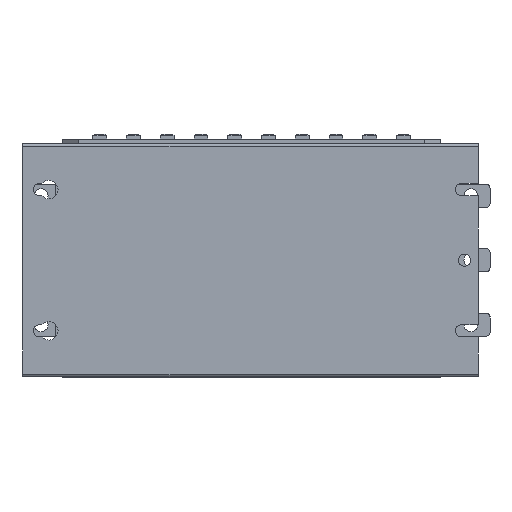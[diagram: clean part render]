
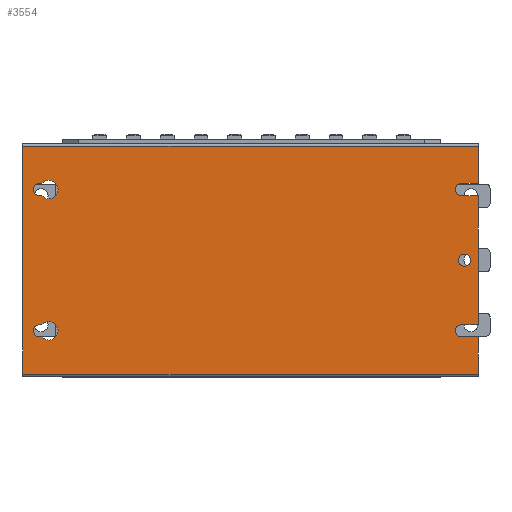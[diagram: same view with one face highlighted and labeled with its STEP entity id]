
A CAD part, front view. The second image highlights one B-rep face of the part: STEP entity #3554.
In plain terms, the highlighted planar face has unit normal (0, -1, 0).
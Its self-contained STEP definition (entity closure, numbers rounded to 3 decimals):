
#3554=ADVANCED_FACE('',(#25844,#25846,#25848,#25850),#25852,.T.);
#25844=FACE_BOUND('',#25845,.T.);
#25845=EDGE_LOOP('',(#47780,#47781,#47782,#47783,#47784,#47785,#47786,#47787,#47788,
#47789,#47790,#47791));
#25846=FACE_BOUND('',#25847,.T.);
#25847=EDGE_LOOP('',(#47792,#47793,#47794,#47795));
#25848=FACE_BOUND('',#25849,.T.);
#25849=EDGE_LOOP('',(#47796,#47797,#47798,#47799));
#25850=FACE_BOUND('',#25851,.T.);
#25851=EDGE_LOOP('',(#47800));
#25852=PLANE('',#25853);
#25853=AXIS2_PLACEMENT_3D('',#25854,#25855,#25856);
#25854=CARTESIAN_POINT('',(0.,0.,76.));
#25855=DIRECTION('',(0.,-1.,0.));
#25856=DIRECTION('',(0.,0.,-1.));
#47780=ORIENTED_EDGE('',*,*,#67159,.F.);
#47781=ORIENTED_EDGE('',*,*,#67160,.T.);
#47782=ORIENTED_EDGE('',*,*,#67161,.T.);
#47783=ORIENTED_EDGE('',*,*,#67162,.T.);
#47784=ORIENTED_EDGE('',*,*,#67163,.F.);
#47785=ORIENTED_EDGE('',*,*,#67158,.T.);
#47786=ORIENTED_EDGE('',*,*,#67164,.T.);
#47787=ORIENTED_EDGE('',*,*,#67165,.F.);
#47788=ORIENTED_EDGE('',*,*,#67166,.F.);
#47789=ORIENTED_EDGE('',*,*,#67167,.T.);
#47790=ORIENTED_EDGE('',*,*,#67168,.T.);
#47791=ORIENTED_EDGE('',*,*,#67169,.F.);
#47792=ORIENTED_EDGE('',*,*,#67170,.T.);
#47793=ORIENTED_EDGE('',*,*,#67171,.F.);
#47794=ORIENTED_EDGE('',*,*,#67172,.T.);
#47795=ORIENTED_EDGE('',*,*,#67173,.F.);
#47796=ORIENTED_EDGE('',*,*,#67174,.F.);
#47797=ORIENTED_EDGE('',*,*,#67175,.T.);
#47798=ORIENTED_EDGE('',*,*,#67176,.F.);
#47799=ORIENTED_EDGE('',*,*,#67177,.T.);
#47800=ORIENTED_EDGE('',*,*,#67178,.F.);
#67158=EDGE_CURVE('',#74462,#74459,#74464,.T.);
#67159=EDGE_CURVE('',#74465,#74466,#74467,.T.);
#67160=EDGE_CURVE('',#74465,#74468,#74469,.T.);
#67161=EDGE_CURVE('',#74468,#74470,#74471,.T.);
#67162=EDGE_CURVE('',#74470,#74472,#74473,.T.);
#67163=EDGE_CURVE('',#74462,#74472,#74474,.T.);
#67164=EDGE_CURVE('',#74459,#74475,#74476,.T.);
#67165=EDGE_CURVE('',#74477,#74475,#74478,.T.);
#67166=EDGE_CURVE('',#74479,#74477,#74480,.T.);
#67167=EDGE_CURVE('',#74479,#74481,#74482,.T.);
#67168=EDGE_CURVE('',#74481,#74483,#74484,.T.);
#67169=EDGE_CURVE('',#74466,#74483,#74485,.T.);
#67170=EDGE_CURVE('',#74486,#74487,#74488,.T.);
#67171=EDGE_CURVE('',#74489,#74487,#74490,.T.);
#67172=EDGE_CURVE('',#74489,#74491,#74492,.T.);
#67173=EDGE_CURVE('',#74486,#74491,#74493,.T.);
#67174=EDGE_CURVE('',#74494,#74495,#74496,.T.);
#67175=EDGE_CURVE('',#74494,#74497,#74498,.T.);
#67176=EDGE_CURVE('',#74499,#74497,#74500,.T.);
#67177=EDGE_CURVE('',#74499,#74495,#74501,.T.);
#67178=EDGE_CURVE('',#74502,#74502,#74503,.T.);
#74459=VERTEX_POINT('',#85673);
#74462=VERTEX_POINT('',#85681);
#74464=LINE('',#85686,#85687);
#74465=VERTEX_POINT('',#85689);
#74466=VERTEX_POINT('',#85690);
#74467=CIRCLE('',#85691,4.);
#74468=VERTEX_POINT('',#85695);
#74469=LINE('',#85696,#85697);
#74470=VERTEX_POINT('',#85699);
#74471=LINE('',#85700,#85701);
#74472=VERTEX_POINT('',#85703);
#74473=LINE('',#85704,#85705);
#74474=LINE('',#85707,#85708);
#74475=VERTEX_POINT('',#85710);
#74476=LINE('',#85711,#85712);
#74477=VERTEX_POINT('',#85714);
#74478=LINE('',#85715,#85716);
#74479=VERTEX_POINT('',#85718);
#74480=CIRCLE('',#85719,4.);
#74481=VERTEX_POINT('',#85723);
#74482=LINE('',#85724,#85725);
#74483=VERTEX_POINT('',#85727);
#74484=LINE('',#85728,#85729);
#74485=LINE('',#85731,#85732);
#74486=VERTEX_POINT('',#85734);
#74487=VERTEX_POINT('',#85735);
#74488=LINE('',#85736,#85737);
#74489=VERTEX_POINT('',#85739);
#74490=CIRCLE('',#85740,6.);
#74491=VERTEX_POINT('',#85744);
#74492=LINE('',#85745,#85746);
#74493=CIRCLE('',#85748,4.);
#74494=VERTEX_POINT('',#85752);
#74495=VERTEX_POINT('',#85753);
#74496=CIRCLE('',#85754,4.);
#74497=VERTEX_POINT('',#85758);
#74498=LINE('',#85759,#85760);
#74499=VERTEX_POINT('',#85762);
#74500=CIRCLE('',#85763,6.);
#74501=LINE('',#85767,#85768);
#74502=VERTEX_POINT('',#85770);
#74503=CIRCLE('',#85771,4.);
#85673=CARTESIAN_POINT('',(297.,0.,-74.2));
#85681=CARTESIAN_POINT('',(0.,0.,-74.2));
#85686=CARTESIAN_POINT('',(0.,0.,-74.2));
#85687=VECTOR('',#85688,1.);
#85688=DIRECTION('',(1.,0.,0.));
#85689=CARTESIAN_POINT('',(286.,0.,50.));
#85690=CARTESIAN_POINT('',(286.,0.,42.));
#85691=AXIS2_PLACEMENT_3D('',#85692,#85693,#85694);
#85692=CARTESIAN_POINT('',(286.,0.,46.));
#85693=DIRECTION('',(0.,-1.,0.));
#85694=DIRECTION('',(0.,0.,1.));
#85695=CARTESIAN_POINT('',(297.,0.,50.));
#85696=CARTESIAN_POINT('',(286.,0.,50.));
#85697=VECTOR('',#85698,1.);
#85698=DIRECTION('',(1.,0.,0.));
#85699=CARTESIAN_POINT('',(297.,0.,74.2));
#85700=CARTESIAN_POINT('',(297.,0.,50.));
#85701=VECTOR('',#85702,1.);
#85702=DIRECTION('',(0.,0.,1.));
#85703=CARTESIAN_POINT('',(0.,0.,74.2));
#85704=CARTESIAN_POINT('',(297.,0.,74.2));
#85705=VECTOR('',#85706,1.);
#85706=DIRECTION('',(-1.,0.,0.));
#85707=CARTESIAN_POINT('',(0.,0.,-74.2));
#85708=VECTOR('',#85709,1.);
#85709=DIRECTION('',(0.,0.,1.));
#85710=CARTESIAN_POINT('',(297.,0.,-50.));
#85711=CARTESIAN_POINT('',(297.,0.,-74.2));
#85712=VECTOR('',#85713,1.);
#85713=DIRECTION('',(0.,0.,1.));
#85714=CARTESIAN_POINT('',(286.,0.,-50.));
#85715=CARTESIAN_POINT('',(286.,0.,-50.));
#85716=VECTOR('',#85717,1.);
#85717=DIRECTION('',(1.,0.,0.));
#85718=CARTESIAN_POINT('',(286.,0.,-42.));
#85719=AXIS2_PLACEMENT_3D('',#85720,#85721,#85722);
#85720=CARTESIAN_POINT('',(286.,0.,-46.));
#85721=DIRECTION('',(0.,-1.,0.));
#85722=DIRECTION('',(0.,0.,1.));
#85723=CARTESIAN_POINT('',(297.,0.,-42.));
#85724=CARTESIAN_POINT('',(286.,0.,-42.));
#85725=VECTOR('',#85726,1.);
#85726=DIRECTION('',(1.,0.,0.));
#85727=CARTESIAN_POINT('',(297.,0.,42.));
#85728=CARTESIAN_POINT('',(297.,0.,-42.));
#85729=VECTOR('',#85730,1.);
#85730=DIRECTION('',(0.,0.,1.));
#85731=CARTESIAN_POINT('',(286.,0.,42.));
#85732=VECTOR('',#85733,1.);
#85733=DIRECTION('',(1.,0.,0.));
#85734=CARTESIAN_POINT('',(11.,0.,50.));
#85735=CARTESIAN_POINT('',(12.528,0.,50.));
#85736=CARTESIAN_POINT('',(11.,0.,50.));
#85737=VECTOR('',#85738,1.);
#85738=DIRECTION('',(1.,0.,0.));
#85739=CARTESIAN_POINT('',(12.528,0.,42.));
#85740=AXIS2_PLACEMENT_3D('',#85741,#85742,#85743);
#85741=CARTESIAN_POINT('',(17.,0.,46.));
#85742=DIRECTION('',(0.,-1.,0.));
#85743=DIRECTION('',(-0.745,0.,-0.667));
#85744=CARTESIAN_POINT('',(11.,0.,42.));
#85745=CARTESIAN_POINT('',(12.528,0.,42.));
#85746=VECTOR('',#85747,1.);
#85747=DIRECTION('',(-1.,0.,0.));
#85748=AXIS2_PLACEMENT_3D('',#85749,#85750,#85751);
#85749=CARTESIAN_POINT('',(11.,0.,46.));
#85750=DIRECTION('',(0.,-1.,0.));
#85751=DIRECTION('',(0.,0.,1.));
#85752=CARTESIAN_POINT('',(11.,0.,-42.));
#85753=CARTESIAN_POINT('',(11.,0.,-50.));
#85754=AXIS2_PLACEMENT_3D('',#85755,#85756,#85757);
#85755=CARTESIAN_POINT('',(11.,0.,-46.));
#85756=DIRECTION('',(0.,-1.,0.));
#85757=DIRECTION('',(0.,0.,1.));
#85758=CARTESIAN_POINT('',(12.528,0.,-42.));
#85759=CARTESIAN_POINT('',(11.,0.,-42.));
#85760=VECTOR('',#85761,1.);
#85761=DIRECTION('',(1.,0.,0.));
#85762=CARTESIAN_POINT('',(12.528,0.,-50.));
#85763=AXIS2_PLACEMENT_3D('',#85764,#85765,#85766);
#85764=CARTESIAN_POINT('',(17.,0.,-46.));
#85765=DIRECTION('',(0.,-1.,0.));
#85766=DIRECTION('',(-0.745,0.,-0.667));
#85767=CARTESIAN_POINT('',(12.528,0.,-50.));
#85768=VECTOR('',#85769,1.);
#85769=DIRECTION('',(-1.,0.,0.));
#85770=CARTESIAN_POINT('',(288.,0.,4.));
#85771=AXIS2_PLACEMENT_3D('',#85772,#85773,#85774);
#85772=CARTESIAN_POINT('',(288.,0.,0.));
#85773=DIRECTION('',(0.,-1.,0.));
#85774=DIRECTION('',(0.,0.,-1.));
